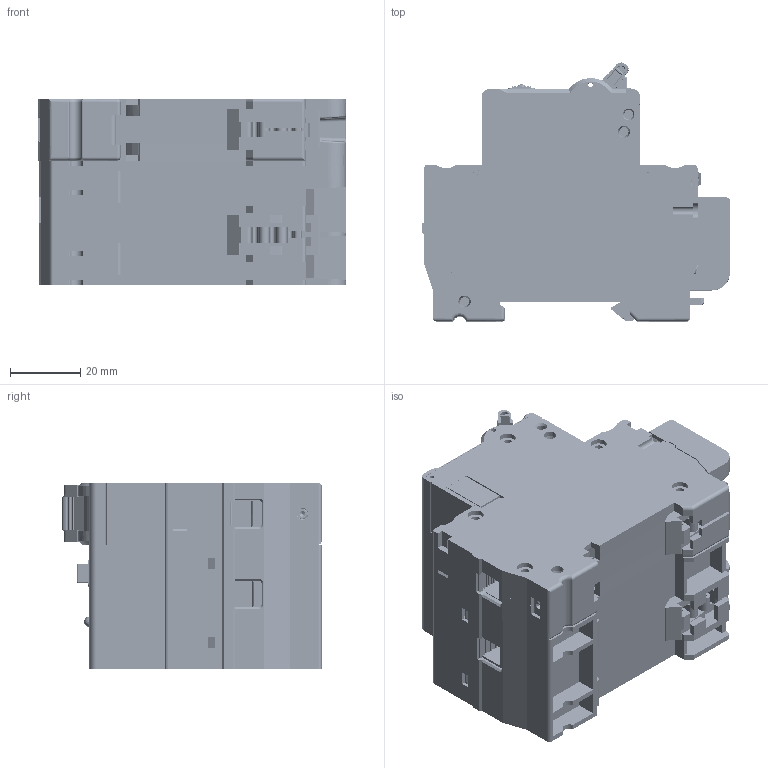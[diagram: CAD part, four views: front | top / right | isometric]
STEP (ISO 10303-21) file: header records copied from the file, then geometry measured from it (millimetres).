
FILE_DESCRIPTION (( 'STEP AP214' ), '1' );
FILE_NAME ('NDB1LE-63Z 1PN軞蚾芞.STEP', '2021-04-25T03:18:29', ( '' ), ( '' ), 'SwSTEP 2.0', 'SolidWorks 2018', '' );
FILE_SCHEMA (( 'AUTOMOTIVE_DESIGN' ));
Length unit declared in the file: millimetre
Products named in the file (1): NDB1LE-63Z 1PN軞蚾芞
Bounding box: 87.6 x 73.81 x 53.1 mm (x, y, z)
Volume: 102029 mm3; surface area: 149862.2 mm2
Topology: 87 solids, 88 shells, 10248 faces, 28385 edges, 18632 vertices
Faces by surface type: plane 6846, cylinder 1908, bspline 1040, cone 280, torus 161, sphere 13
Entity records: 493857 total; most frequent: CARTESIAN_POINT 124345, ORIENTED_EDGE 56704, DIRECTION 47734, EDGE_CURVE 28352, VECTOR 20822, LINE 20822, VERTEX_POINT 18627, AXIS2_PLACEMENT_3D 13456
